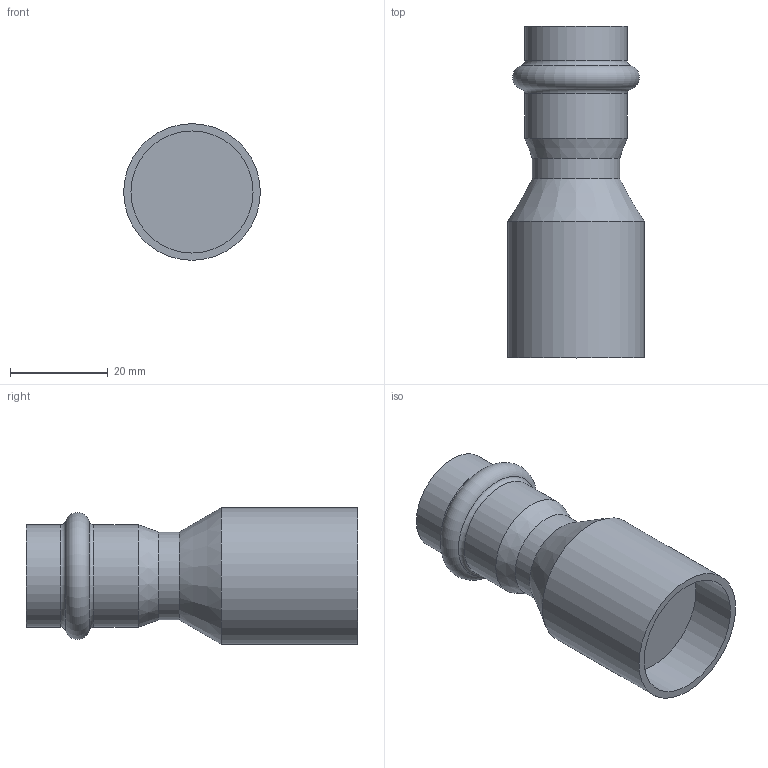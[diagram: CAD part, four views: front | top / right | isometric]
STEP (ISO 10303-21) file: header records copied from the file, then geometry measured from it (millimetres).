
FILE_DESCRIPTION(('STEP AP203'), '1');
FILE_NAME('VTi.905.I.002818', '', ('UNSPECIFIED'), ('UNSPECIFIED'), 'C3D Converter', 'C3D Toolkit', '');
FILE_SCHEMA(('CONFIG_CONTROL_DESIGN'));
Length unit declared in the file: millimetre
Bounding box: 28 x 68 x 28 mm (x, y, z)
Volume: 25095.6 mm3; surface area: 7598.1 mm2
Topology: 1 solids, 1 shells, 15 faces, 26 edges, 15 vertices
Faces by surface type: cylinder 6, plane 4, torus 3, cone 2
Full cylindrical faces by diameter (mm): 18 x1, 18.3 x1, 21 x2, 25.04 x1, 28 x1
Entity records: 344 total; most frequent: DIRECTION 62, CARTESIAN_POINT 46, AXIS2_PLACEMENT_3D 31, ORIENTED_EDGE 30, EDGE_LOOP 28, FACE_OUTER_BOUND 20, ADVANCED_FACE 15, EDGE_CURVE 15
